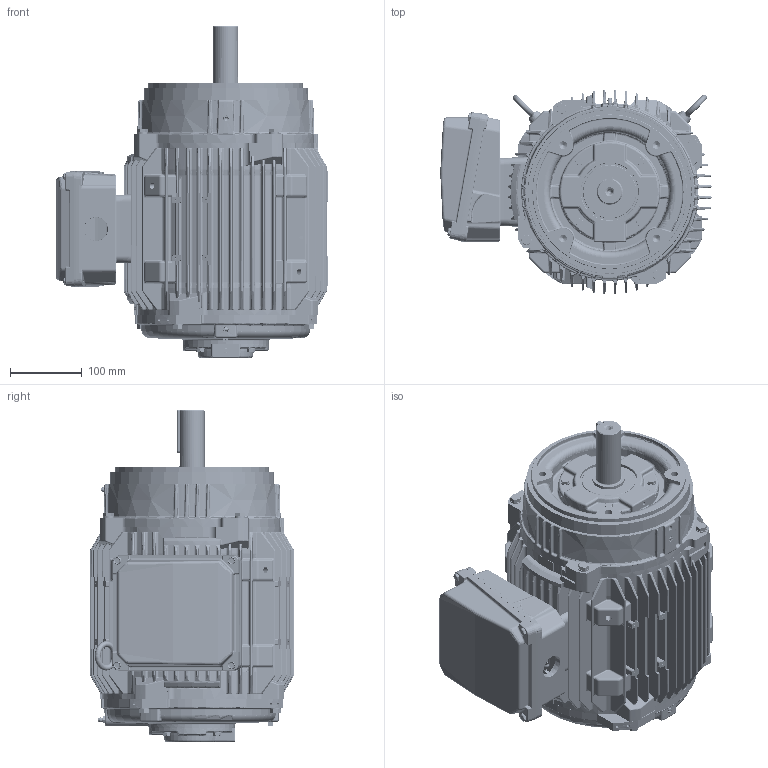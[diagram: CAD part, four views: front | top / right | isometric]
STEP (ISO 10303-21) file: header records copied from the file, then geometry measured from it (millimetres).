
FILE_DESCRIPTION (( 'STEP AP203' ), '1' );
FILE_NAME ('SS621284-200_RevA.STEP', '2022-04-08T15:09:28', ( '' ), ( '' ), 'SwSTEP 2.0', 'SolidWorks 2021', '' );
FILE_SCHEMA (( 'CONFIG_CONTROL_DESIGN' ));
Products named in the file (1): SS621284-200_RevA
Bounding box: 378.71 x 284.6 x 462.9 mm (x, y, z)
Surface area: 1564654.7 mm2 (no closed solid volume)
Topology: 0 solids, 458 shells, 10423 faces, 26193 edges, 15007 vertices
Faces by surface type: cylinder 2768, bspline 2381, sphere 1878, plane 1259, cone 1141, torus 996
Entity records: 368747 total; most frequent: CARTESIAN_POINT 156012, ORIENTED_EDGE 45744, DIRECTION 43668, EDGE_CURVE 22876, AXIS2_PLACEMENT_3D 18956, VERTEX_POINT 13485, CIRCLE 10913, EDGE_LOOP 10695
